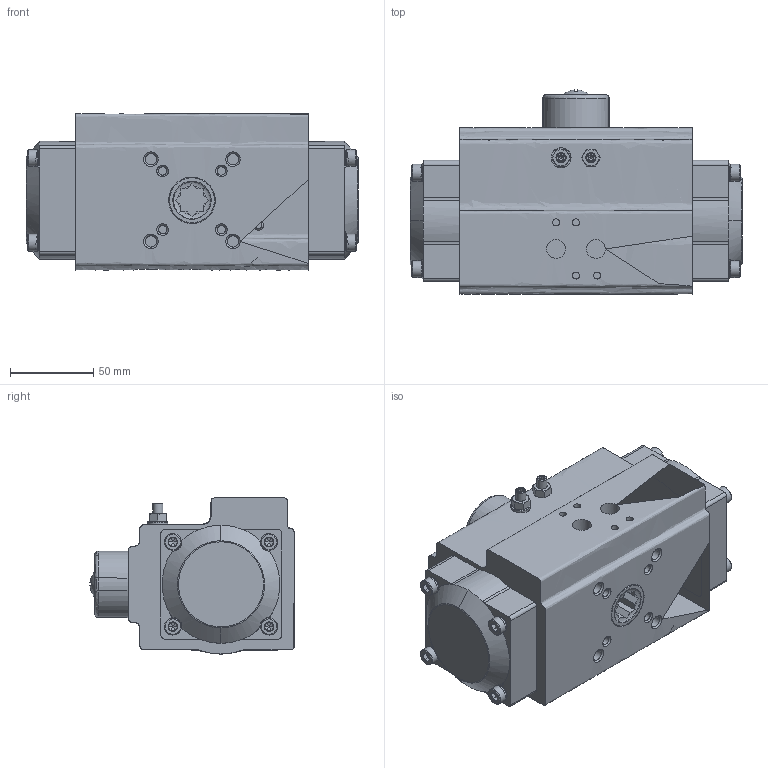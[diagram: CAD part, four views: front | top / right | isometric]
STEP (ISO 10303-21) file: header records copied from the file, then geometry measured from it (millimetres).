
FILE_DESCRIPTION(('STEP AP203'), '1');
FILE_NAME('3D_930-DA_SR-0060-14õ14', '', ('UNSPECIFIED'), ('UNSPECIFIED'), 'C3D Converter', 'C3D Toolkit', '');
FILE_SCHEMA(('CONFIG_CONTROL_DESIGN'));
Length unit declared in the file: millimetre
Assembly tree (32 placements, depth 3):
  (unnamed)
    (unnamed)  x4
    (unnamed)
    (unnamed)
    (unnamed)
    (unnamed)
    (unnamed)  x4
    (unnamed)
    (unnamed)
    (unnamed)
    (unnamed)
    (unnamed)  x2
    (unnamed)  x2
    (unnamed)
    (unnamed)
    (unnamed)
      (unnamed)
      (unnamed)
      (unnamed)
    (unnamed)
    (unnamed)
    (unnamed)
    (unnamed)
    (unnamed)
    (unnamed)
Bounding box: 200 x 122.92 x 94 mm (x, y, z)
Volume: 1526820.2 mm3; surface area: 159968 mm2
Topology: 34 solids, 40 shells, 911 faces, 1968 edges, 1190 vertices
Faces by surface type: plane 391, cylinder 175, bspline 146, cone 119, torus 79, sphere 1
Full cylindrical faces by diameter (mm): 1 x2, 4.2 x8, 5 x7, 5.1 x2, 6 x11, 6.4 x1, 6.8 x4, 7 x8, 10.2 x8, 11.4 x2, 12 x1, 14 x1, 15 x14, 18 x1, 18.2 x1, 18.5 x1, 24 x2, 24.3 x1, 26 x1, 26.8 x1, 28 x4, 56 x1
Entity records: 61631 total; most frequent: CARTESIAN_POINT 40382, ORIENTED_EDGE 2950, DIRECTION 2507, EDGE_CURVE 1475, AXIS2_PLACEMENT_3D 1023, VERTEX_POINT 994, EDGE_LOOP 895, COLOUR_RGB 733
